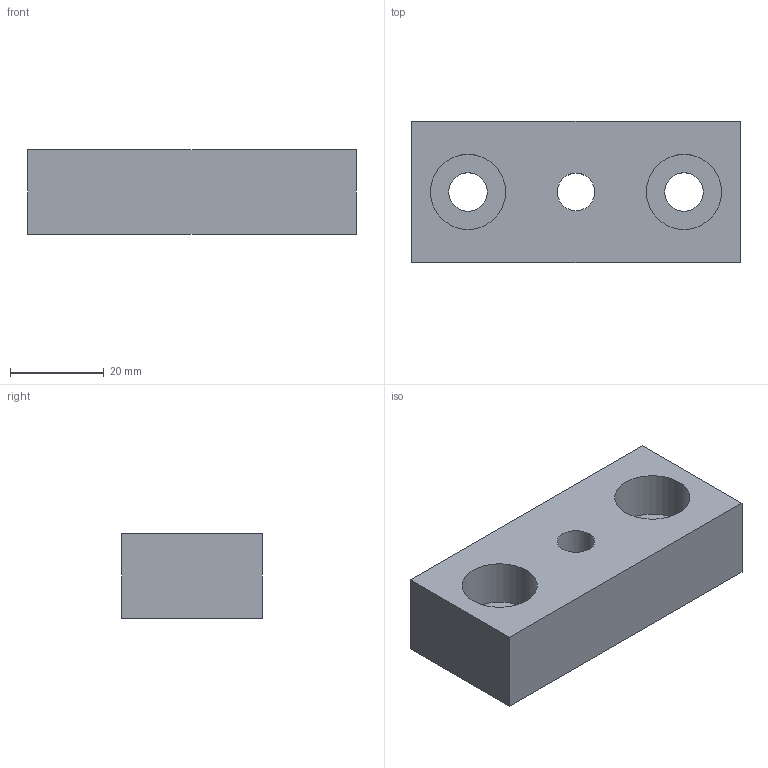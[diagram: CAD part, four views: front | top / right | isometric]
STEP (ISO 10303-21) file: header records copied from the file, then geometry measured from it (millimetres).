
FILE_DESCRIPTION(/* description */ (''),/* implementation_level */ '2;1');
FILE_NAME(/* name */ '042_bloc_survey.stp',/* time_stamp */ '2020-01-14T13:58:26+01:00',/* author */ (''),/* organization */ (''),/* preprocessor_version */ 'ST-DEVELOPER v16.7',/* originating_system */ 'SIEMENS PLM Software NX 12.0',/* authorisation */ '');
FILE_SCHEMA (('AUTOMOTIVE_DESIGN { 1 0 10303 214 3 1 1 1 }'));
Length unit declared in the file: millimetre
Products named in the file (1): bmas28EC4ACD3eug
Bounding box: 70 x 30 x 18 mm (x, y, z)
Volume: 32029 mm3; surface area: 9358.1 mm2
Topology: 1 solids, 1 shells, 13 faces, 29 edges, 20 vertices
Faces by surface type: plane 8, cylinder 5
Full cylindrical faces by diameter (mm): 8 x1, 8.2 x2, 16 x2
Entity records: 370 total; most frequent: DIRECTION 60, CARTESIAN_POINT 54, ORIENTED_EDGE 44, EDGE_LOOP 26, AXIS2_PLACEMENT_3D 24, FACE_BOUND 22, EDGE_CURVE 22, VERTEX_POINT 18
